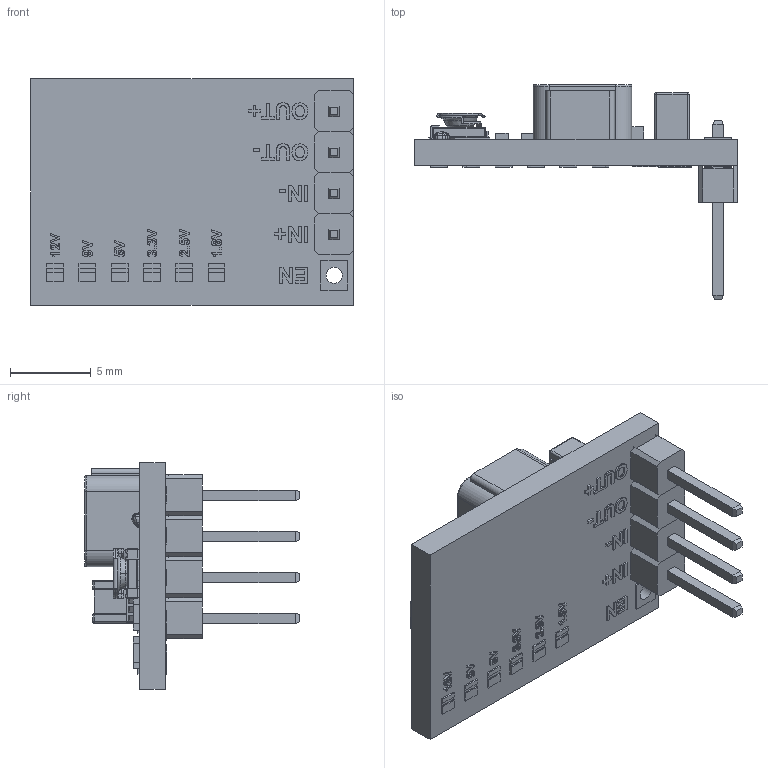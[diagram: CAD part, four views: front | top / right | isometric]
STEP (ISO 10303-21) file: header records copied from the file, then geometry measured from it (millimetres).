
FILE_DESCRIPTION((''),'2;1');
FILE_NAME('DC_12V_TO_5V_BUCK_CONVERTER_ASM','2023-02-25T19:12:08',('ges'),('Digital ModelMasters, Inc.'),'CREO PARAMETRIC BY PTC INC, 2019344','CREO PARAMETRIC BY PTC INC, 2019344','');
FILE_SCHEMA(('CONFIG_CONTROL_DESIGN','SHAPE_APPEARANCE_LAYERS_GROUPS'));
Length unit declared in the file: millimetre
Products named in the file (42): BOARD; BODY1-875; BODY2-876; 1818AW_INDUCTOR_ASM; BODY2-865; BODY3-866; BODY4-867; BODY5-868; BODY6-869; VOLTAGE_CONTROLLER_ASM; BODY1-877; BODY2-878; BODY3-879; LARGE_SMD_RESISTOR_ASM; COMPONENT24; COMPONENT25; COMPONENT26; COMPONENT27; BODY1-887; BODY2-888; BODY3-889; SMALL_SMD_CAPACITOR__DC-DC_4_5-_ASM; BODY1-896; BODY2-897; BODY3-898; SMD_RESISTOR__822__DC-DC_4_5-28_ASM; BODY1-890; BODY2-891; BODY3-892; BODY4-893; BODY5-894; BODY6-895; POTENTIOMETER__DC-DC_4_5-28V_TO_ASM; BUCK_CONVERTER_ASM; 1X_M_PIN_2_54_MM; BODY9; BODY1-884; BODY2-885; BODY3-886; TRACE_PAD_ASM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
Assembly tree (61 placements, depth 4):
  DC_12V_TO_5V_BUCK_CONVERTER_ASM
    BUCK_CONVERTER_ASM
      BOARD
      1818AW_INDUCTOR_ASM
        BODY1-875
        BODY2-876
      VOLTAGE_CONTROLLER_ASM
        BODY2-865
        BODY3-866
        BODY4-867
        BODY5-868  x5
        BODY6-869
      LARGE_SMD_RESISTOR_ASM  x2
        BODY1-877
        BODY2-878
        BODY3-879
      COMPONENT24
      COMPONENT25
      COMPONENT26
      COMPONENT27
      SMALL_SMD_CAPACITOR__DC-DC_4_5-_ASM
        BODY1-887
        BODY2-888
        BODY3-889
      SMD_RESISTOR__822__DC-DC_4_5-28_ASM  x7
        BODY1-896
        BODY2-897
        BODY3-898
      POTENTIOMETER__DC-DC_4_5-28V_TO_ASM
        BODY1-890
        BODY2-891
        BODY3-892
        BODY4-893
        BODY5-894
        BODY6-895
    1X_M_PIN_2_54_MM  x4
    COMPONENT24
    BODY9
    TRACE_PAD_ASM  x6
      BODY1-884
      BODY2-885
      BODY3-886
    LETTER
Bounding box: 20 x 13.3 x 14 mm (x, y, z)
Volume: 680.3 mm3; surface area: 1526.8 mm2
Topology: 111 solids, 111 shells, 1615 faces, 3963 edges, 2575 vertices
Faces by surface type: plane 952, cylinder 245, extrusion 238, bspline 78, torus 47, sphere 36, cone 19
Entity records: 50640 total; most frequent: CARTESIAN_POINT 15541, ORIENTED_EDGE 6182, DIRECTION 5111, EDGE_CURVE 3091, VERTEX_POINT 2008, VECTOR 2007, PRESENTATION_STYLE_ASSIGNMENT 1847, STYLED_ITEM 1809
